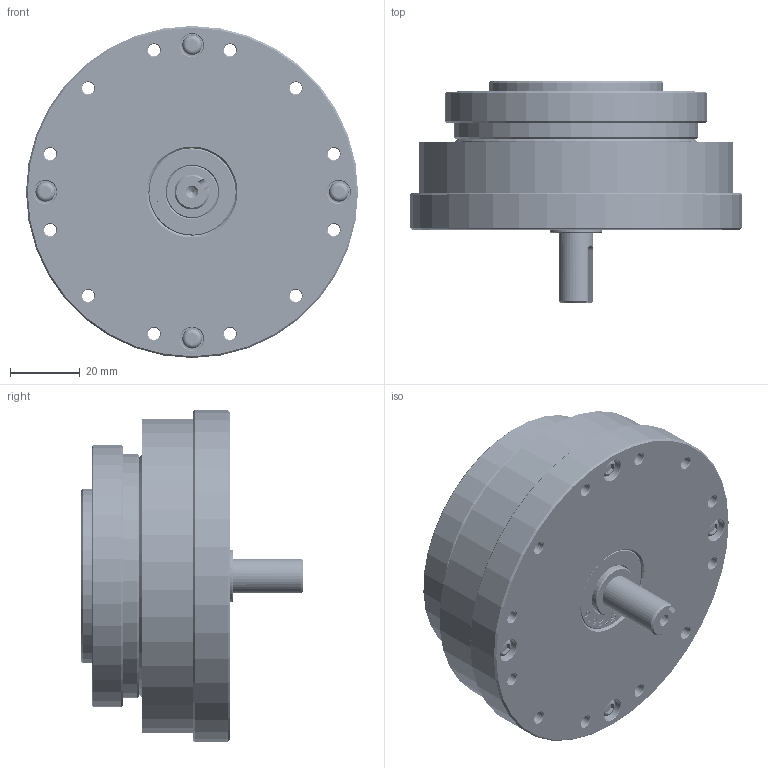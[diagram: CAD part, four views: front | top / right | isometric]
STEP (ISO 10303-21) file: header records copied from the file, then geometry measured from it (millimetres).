
FILE_DESCRIPTION(/* description */ (''),/* implementation_level */ '2;1');
FILE_NAME(/* name */ 'XBJ20成品图.prt.stp',/* time_stamp */ '2022-07-21T18:18:31+08:00',/* author */ (''),/* organization */ (''),/* preprocessor_version */ 'ST-DEVELOPER v16',/* originating_system */ 'SIEMENS PLM Software NX 10.0',/* authorisation */ '');
FILE_SCHEMA (('CONFIG_CONTROL_DESIGN'));
Products named in the file (21): 20-柔性轴承保持架（日标）; 平键销5X10; XBJ20-3-1凸轮; YM3X12; M3X16; 内卡簧φ28X1.2; G15255; 深沟球轴承698-ZZ; 深沟球轴承6902-ZZ; XBJ20-6上盖板; XBJ20-7下盖板; G69785; XBK20-1钢轮; M2X6; XBK20-4-1-1 销子; XBK20-4-1内芯; XBK20-4-2外圈; XBK20-2柔轮; 20-柔性轴承（日标）_MODEL; XBJ20-5输入轴_MODEL; XBJ20成品图
Assembly tree (26 placements, depth 3):
  XBJ20成品图
    XBK20-2柔轮
    XBK20-4-2外圈
    XBK20-4-1内芯
    XBK20-4-1-1 销子
    M2X6
    XBK20-1钢轮
    G69785
    XBJ20-7下盖板
    XBJ20-6上盖板
    深沟球轴承6902-ZZ
    深沟球轴承698-ZZ
    G15255
    内卡簧φ28X1.2
    XBJ20-5输入轴_MODEL
      平键销5X10
    M3X16  x4
    YM3X12  x4
    XBJ20-3-1凸轮
    20-柔性轴承（日标）_MODEL
      20-柔性轴承保持架（日标）
Bounding box: 95 x 63.5 x 95 mm (x, y, z)
Volume: 208310.6 mm3; surface area: 142743.8 mm2
Topology: 81 solids, 81 shells, 1260 faces, 3040 edges, 1956 vertices
Faces by surface type: plane 452, cylinder 309, cone 284, extrusion 81, bspline 60, sphere 51, torus 23
Full cylindrical faces by diameter (mm): 1 x2, 2.3 x1, 2.5 x1, 2.6 x20, 3.5 x100, 4 x2, 5.6 x4, 5.68 x4, 6 x8, 6.5 x4, 8 x2, 10 x1, 12.4 x2, 14 x1, 15 x3, 16 x1, 16.4 x2, 17 x1, 18 x1, 19 x2, 19.4 x2, 22 x3, 24.8 x2, 25 x2, 28 x3, 29.4 x1, 34 x1, 34.5 x1, 35.56 x1, 37 x1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
Entity records: 100679 total; most frequent: CARTESIAN_POINT 75714, DIRECTION 4332, ORIENTED_EDGE 3874, EDGE_CURVE 1937, EDGE_LOOP 1912, AXIS2_PLACEMENT_3D 1855, VERTEX_POINT 1574, FACE_BOUND 1493
